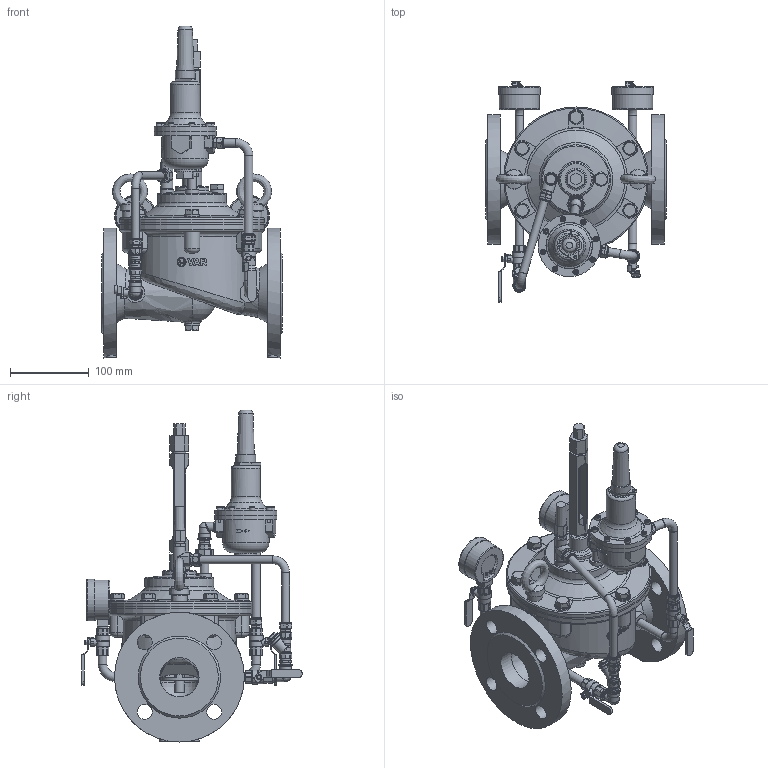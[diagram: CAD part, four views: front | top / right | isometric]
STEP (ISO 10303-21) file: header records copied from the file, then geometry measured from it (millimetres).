
FILE_DESCRIPTION(('STEP AP242'), '1');
FILE_NAME('PICO C200', '', ('UNSPECIFIED'), ('UNSPECIFIED'), 'C3D Converter', 'C3D Toolkit', '');
FILE_SCHEMA(('AP242_MANAGED_MODEL_BASED_3D_ENGINEERING_MIM_LF { 1 0 10303 442 1 1 4 }'));
Length unit declared in the file: millimetre
Products named in the file (26): М; ВР.752218.002
Assembly tree (57 placements, depth 3):
  (unnamed)
    (unnamed)
    (unnamed)
    (unnamed)
    (unnamed)
    (unnamed)
    (unnamed)
    (unnamed)
    М  x2
    (unnamed)
    (unnamed)  x4
    ВР.752218.002  x2
    (unnamed)  x6
    (unnamed)
    (unnamed)  x4
    (unnamed)
    (unnamed)
      (unnamed)
      (unnamed)
      (unnamed)  x8
      (unnamed)
    (unnamed)
    (unnamed)  x6
    (unnamed)  x6
    (unnamed)  x2
    (unnamed)  x2
Bounding box: 230 x 280 x 422 mm (x, y, z)
Volume: 2306215.3 mm3; surface area: 700165.3 mm2
Topology: 63 solids, 65 shells, 2800 faces, 7067 edges, 4638 vertices
Faces by surface type: plane 1553, cylinder 599, cone 309, extrusion 135, torus 105, bspline 88, sphere 11
Full cylindrical faces by diameter (mm): 0.518 x2, 1.2 x1, 2.5 x2, 3 x8, 4 x25, 4.2 x4, 4.5 x4, 5 x2, 6 x8, 7 x8, 8 x5, 8.7 x1, 9 x16, 9.3 x6, 9.5 x2, 10 x39, 10.2 x4, 10.5 x6, 10.8 x2, 11 x17, 11.16 x4, 11.179 x6, 11.22 x4, 11.345 x1, 11.4 x2, 11.577 x2, 12 x10, 12.5 x3, 12.573 x15, 13.157 x2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
Entity records: 111740 total; most frequent: CARTESIAN_POINT 63143, ORIENTED_EDGE 7736, DIRECTION 6973, EDGE_CURVE 3868, VERTEX_POINT 2766, AXIS2_PLACEMENT_3D 2552, EDGE_LOOP 2346, VECTOR 1869
